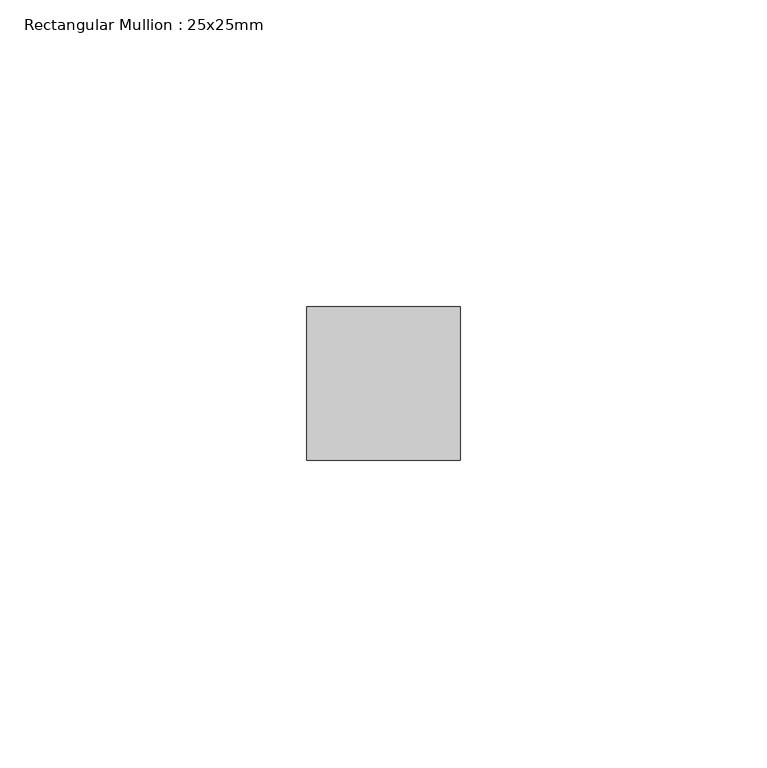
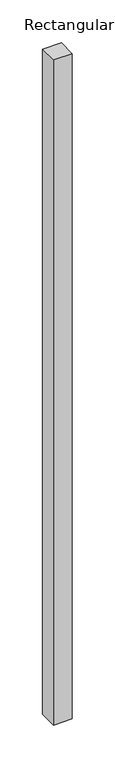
"""IFC4 building model written with IfcOpenShell, lengths in millimetres: member geometry, Rectangular Mullion : 25x25mm."""

from ifc_helpers import new_model, si_unit, frame, origin, place, context, project, spatial, polyline, outline, extrude, source, transform, mapped, element, save


def rectangular_mullion_25x25mm_60a078a6(model_context):
    return source(origin(), model_context, "Body", "SweptSolid", [
        extrude(outline(polyline([(0.0, 0.5), (0.0, -24.5), (-25.0, -24.5), (-25.0, 0.5), (0.0, 0.5)])), frame((0.0, 0.0, -945.0), z_axis=(0.0, 0.0, 1.0), x_axis=(1.0, 0.0, 0.0)), (0.0, 0.0, 1.0), 945.0),
    ])


if __name__ == "__main__":
    model = new_model("IFC4")
    model_context = context("Model", 3, world=origin())
    ifc_project = project(units=[si_unit("LENGTHUNIT", "METRE", prefix="MILLI")], contexts=[model_context])
    site = spatial("IfcSite", under=ifc_project)
    building = spatial("IfcBuilding", under=site)
    placement = place(None, origin())
    rectangular_mullion_25x25mm_shape = rectangular_mullion_25x25mm_60a078a6(model_context)
    element("IfcMember", 1, ObjectType="Rectangular Mullion : 25x25mm", at=placement, inside=building, context=model_context, shape_type="MappedRepresentation", body=[
        mapped(rectangular_mullion_25x25mm_shape, transform((0.0, 0.0, 0.0), x_axis=(1.0, 0.0, 0.0), y_axis=(0.0, 1.0, 0.0), z_axis=(0.0, 0.0, 1.0))),
    ])
    save(model, "model.ifc")
